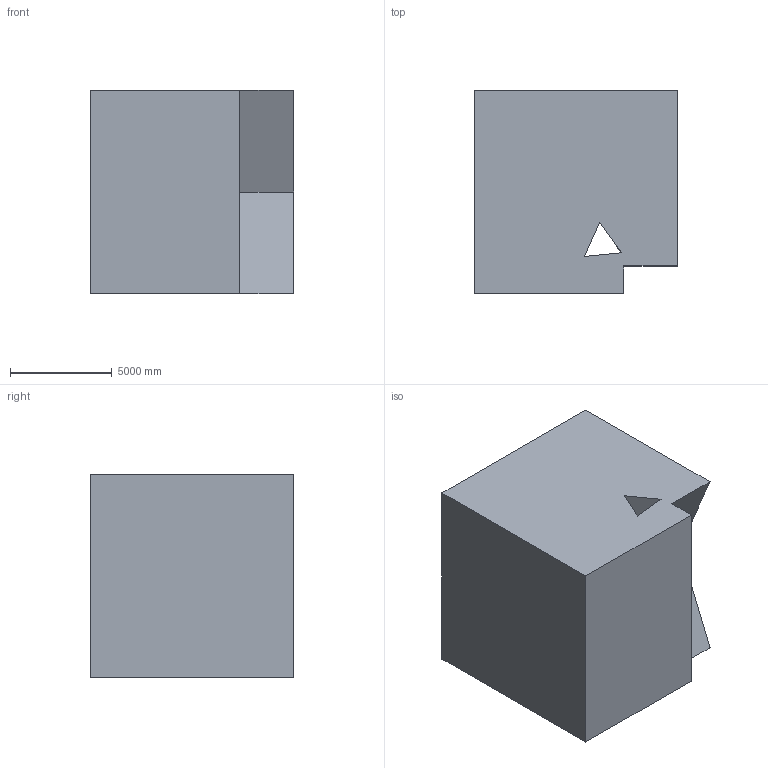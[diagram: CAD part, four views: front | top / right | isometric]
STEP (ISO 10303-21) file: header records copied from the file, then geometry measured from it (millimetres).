
FILE_DESCRIPTION (( 'STEP AP203' ), '1' );
FILE_NAME ('227.STEP', '2022-09-07T12:21:38', ( 'user' ), ( '' ), 'SwSTEP 2.0', 'SolidWorks 2021', '' );
FILE_SCHEMA (( 'CONFIG_CONTROL_DESIGN' ));
Length unit declared in the file: centimetre
Products named in the file (1): 227
Bounding box: 10000 x 10000 x 10000 mm (x, y, z)
Volume: 921611639432.4 mm3; surface area: 647324380.1 mm2
Topology: 1 solids, 1 shells, 12 faces, 30 edges, 20 vertices
Faces by surface type: plane 12
Entity records: 435 total; most frequent: CARTESIAN_POINT 63, ORIENTED_EDGE 60, DIRECTION 56, LINE 30, VECTOR 30, EDGE_CURVE 30, VERTEX_POINT 20, EDGE_LOOP 14
